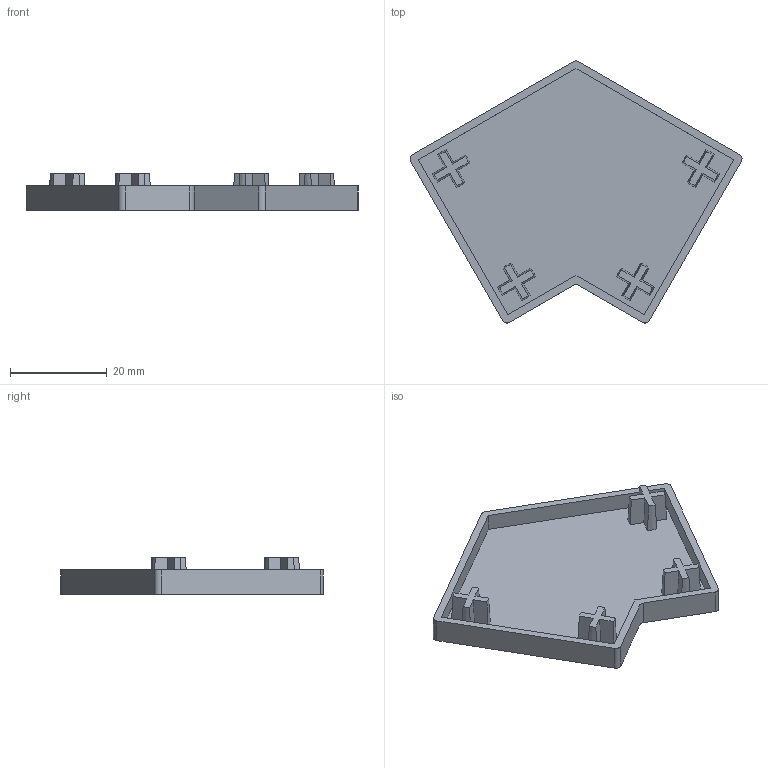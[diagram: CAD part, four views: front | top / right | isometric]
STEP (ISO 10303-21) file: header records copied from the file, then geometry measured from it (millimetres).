
FILE_DESCRIPTION (( 'STEP AP203' ), '1' );
FILE_NAME ('EC40120-8.STEP', '2024-02-19T06:03:14', ( '' ), ( '' ), 'SwSTEP 2.0', 'SolidWorks 2022', '' );
FILE_SCHEMA (( 'CONFIG_CONTROL_DESIGN' ));
Length unit declared in the file: millimetre
Products named in the file (1): EC40120-8
Bounding box: 68.55 x 54.12 x 7.5 mm (x, y, z)
Volume: 4945.3 mm3; surface area: 6830.8 mm2
Topology: 1 solids, 1 shells, 74 faces, 201 edges, 134 vertices
Faces by surface type: plane 51, cone 16, cylinder 7
Entity records: 2440 total; most frequent: CARTESIAN_POINT 506, ORIENTED_EDGE 402, DIRECTION 365, EDGE_CURVE 201, VERTEX_POINT 134, LINE 123, VECTOR 123, AXIS2_PLACEMENT_3D 121
